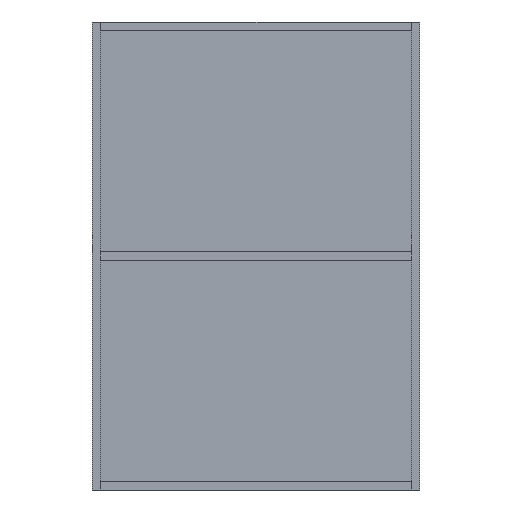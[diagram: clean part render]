
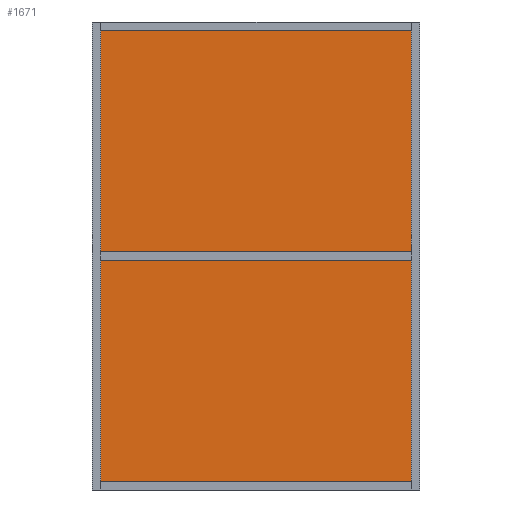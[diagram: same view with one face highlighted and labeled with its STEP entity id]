
A CAD part, front view. The second image highlights one B-rep face of the part: STEP entity #1671.
In plain terms, the highlighted planar face has unit normal (0, -1, 0).
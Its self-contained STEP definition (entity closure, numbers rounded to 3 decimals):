
#1455 = EDGE_CURVE('',#1456,#1458,#1460,.T.);
#1456 = VERTEX_POINT('',#1457);
#1457 = CARTESIAN_POINT('',(-332.,207.,18.));
#1458 = VERTEX_POINT('',#1459);
#1459 = CARTESIAN_POINT('',(-332.,207.,982.));
#1460 = SURFACE_CURVE('',#1461,(#1465,#1477),.PCURVE_S1.);
#1461 = LINE('',#1462,#1463);
#1462 = CARTESIAN_POINT('',(-332.,207.,18.));
#1463 = VECTOR('',#1464,1.);
#1464 = DIRECTION('',(0.,0.,1.));
#1465 = PCURVE('',#1466,#1471);
#1466 = PLANE('',#1467);
#1467 = AXIS2_PLACEMENT_3D('',#1468,#1469,#1470);
#1468 = CARTESIAN_POINT('',(-332.,207.,18.));
#1469 = DIRECTION('',(1.,0.,0.));
#1470 = DIRECTION('',(0.,0.,1.));
#1471 = DEFINITIONAL_REPRESENTATION('',(#1472),#1476);
#1472 = LINE('',#1473,#1474);
#1473 = CARTESIAN_POINT('',(0.,0.));
#1474 = VECTOR('',#1475,1.);
#1475 = DIRECTION('',(1.,0.));
#1476 = ( GEOMETRIC_REPRESENTATION_CONTEXT(2) 
PARAMETRIC_REPRESENTATION_CONTEXT() REPRESENTATION_CONTEXT('2D SPACE',''
  ) );
#1477 = PCURVE('',#1478,#1483);
#1478 = PLANE('',#1479);
#1479 = AXIS2_PLACEMENT_3D('',#1480,#1481,#1482);
#1480 = CARTESIAN_POINT('',(-332.,207.,18.));
#1481 = DIRECTION('',(0.,1.,0.));
#1482 = DIRECTION('',(0.,0.,1.));
#1483 = DEFINITIONAL_REPRESENTATION('',(#1484),#1488);
#1484 = LINE('',#1485,#1486);
#1485 = CARTESIAN_POINT('',(0.,0.));
#1486 = VECTOR('',#1487,1.);
#1487 = DIRECTION('',(1.,0.));
#1488 = ( GEOMETRIC_REPRESENTATION_CONTEXT(2) 
PARAMETRIC_REPRESENTATION_CONTEXT() REPRESENTATION_CONTEXT('2D SPACE',''
  ) );
#1506 = PLANE('',#1507);
#1507 = AXIS2_PLACEMENT_3D('',#1508,#1509,#1510);
#1508 = CARTESIAN_POINT('',(-332.,207.,18.));
#1509 = DIRECTION('',(0.,0.,1.));
#1510 = DIRECTION('',(1.,0.,0.));
#1560 = PLANE('',#1561);
#1561 = AXIS2_PLACEMENT_3D('',#1562,#1563,#1564);
#1562 = CARTESIAN_POINT('',(-332.,207.,982.));
#1563 = DIRECTION('',(0.,0.,1.));
#1564 = DIRECTION('',(1.,0.,0.));
#1575 = EDGE_CURVE('',#1576,#1578,#1580,.T.);
#1576 = VERTEX_POINT('',#1577);
#1577 = CARTESIAN_POINT('',(332.,207.,18.));
#1578 = VERTEX_POINT('',#1579);
#1579 = CARTESIAN_POINT('',(332.,207.,982.));
#1580 = SURFACE_CURVE('',#1581,(#1585,#1597),.PCURVE_S1.);
#1581 = LINE('',#1582,#1583);
#1582 = CARTESIAN_POINT('',(332.,207.,18.));
#1583 = VECTOR('',#1584,1.);
#1584 = DIRECTION('',(0.,0.,1.));
#1585 = PCURVE('',#1586,#1591);
#1586 = PLANE('',#1587);
#1587 = AXIS2_PLACEMENT_3D('',#1588,#1589,#1590);
#1588 = CARTESIAN_POINT('',(332.,207.,18.));
#1589 = DIRECTION('',(1.,0.,0.));
#1590 = DIRECTION('',(0.,0.,1.));
#1591 = DEFINITIONAL_REPRESENTATION('',(#1592),#1596);
#1592 = LINE('',#1593,#1594);
#1593 = CARTESIAN_POINT('',(0.,0.));
#1594 = VECTOR('',#1595,1.);
#1595 = DIRECTION('',(1.,0.));
#1596 = ( GEOMETRIC_REPRESENTATION_CONTEXT(2) 
PARAMETRIC_REPRESENTATION_CONTEXT() REPRESENTATION_CONTEXT('2D SPACE',''
  ) );
#1597 = PCURVE('',#1478,#1598);
#1598 = DEFINITIONAL_REPRESENTATION('',(#1599),#1603);
#1599 = LINE('',#1600,#1601);
#1600 = CARTESIAN_POINT('',(0.,664.));
#1601 = VECTOR('',#1602,1.);
#1602 = DIRECTION('',(1.,0.));
#1603 = ( GEOMETRIC_REPRESENTATION_CONTEXT(2) 
PARAMETRIC_REPRESENTATION_CONTEXT() REPRESENTATION_CONTEXT('2D SPACE',''
  ) );
#1671 = ADVANCED_FACE('',(#1672),#1478,.F.);
#1672 = FACE_BOUND('',#1673,.F.);
#1673 = EDGE_LOOP('',(#1674,#1695,#1696,#1717));
#1674 = ORIENTED_EDGE('',*,*,#1675,.F.);
#1675 = EDGE_CURVE('',#1456,#1576,#1676,.T.);
#1676 = SURFACE_CURVE('',#1677,(#1681,#1688),.PCURVE_S1.);
#1677 = LINE('',#1678,#1679);
#1678 = CARTESIAN_POINT('',(-332.,207.,18.));
#1679 = VECTOR('',#1680,1.);
#1680 = DIRECTION('',(1.,0.,0.));
#1681 = PCURVE('',#1478,#1682);
#1682 = DEFINITIONAL_REPRESENTATION('',(#1683),#1687);
#1683 = LINE('',#1684,#1685);
#1684 = CARTESIAN_POINT('',(0.,0.));
#1685 = VECTOR('',#1686,1.);
#1686 = DIRECTION('',(0.,1.));
#1687 = ( GEOMETRIC_REPRESENTATION_CONTEXT(2) 
PARAMETRIC_REPRESENTATION_CONTEXT() REPRESENTATION_CONTEXT('2D SPACE',''
  ) );
#1688 = PCURVE('',#1506,#1689);
#1689 = DEFINITIONAL_REPRESENTATION('',(#1690),#1694);
#1690 = LINE('',#1691,#1692);
#1691 = CARTESIAN_POINT('',(0.,0.));
#1692 = VECTOR('',#1693,1.);
#1693 = DIRECTION('',(1.,0.));
#1694 = ( GEOMETRIC_REPRESENTATION_CONTEXT(2) 
PARAMETRIC_REPRESENTATION_CONTEXT() REPRESENTATION_CONTEXT('2D SPACE',''
  ) );
#1695 = ORIENTED_EDGE('',*,*,#1455,.T.);
#1696 = ORIENTED_EDGE('',*,*,#1697,.T.);
#1697 = EDGE_CURVE('',#1458,#1578,#1698,.T.);
#1698 = SURFACE_CURVE('',#1699,(#1703,#1710),.PCURVE_S1.);
#1699 = LINE('',#1700,#1701);
#1700 = CARTESIAN_POINT('',(-332.,207.,982.));
#1701 = VECTOR('',#1702,1.);
#1702 = DIRECTION('',(1.,0.,0.));
#1703 = PCURVE('',#1478,#1704);
#1704 = DEFINITIONAL_REPRESENTATION('',(#1705),#1709);
#1705 = LINE('',#1706,#1707);
#1706 = CARTESIAN_POINT('',(964.,0.));
#1707 = VECTOR('',#1708,1.);
#1708 = DIRECTION('',(0.,1.));
#1709 = ( GEOMETRIC_REPRESENTATION_CONTEXT(2) 
PARAMETRIC_REPRESENTATION_CONTEXT() REPRESENTATION_CONTEXT('2D SPACE',''
  ) );
#1710 = PCURVE('',#1560,#1711);
#1711 = DEFINITIONAL_REPRESENTATION('',(#1712),#1716);
#1712 = LINE('',#1713,#1714);
#1713 = CARTESIAN_POINT('',(0.,0.));
#1714 = VECTOR('',#1715,1.);
#1715 = DIRECTION('',(1.,0.));
#1716 = ( GEOMETRIC_REPRESENTATION_CONTEXT(2) 
PARAMETRIC_REPRESENTATION_CONTEXT() REPRESENTATION_CONTEXT('2D SPACE',''
  ) );
#1717 = ORIENTED_EDGE('',*,*,#1575,.F.);
